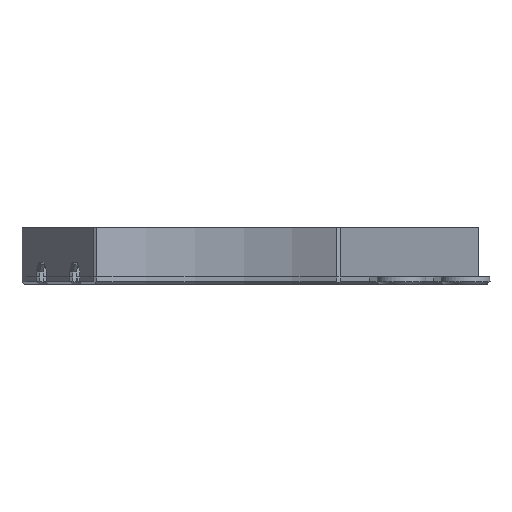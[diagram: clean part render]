
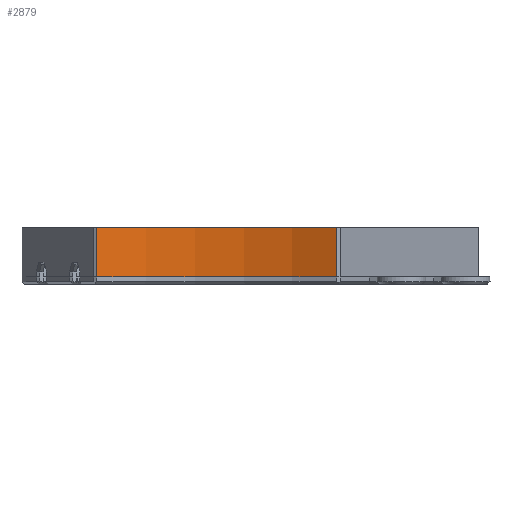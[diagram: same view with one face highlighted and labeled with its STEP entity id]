
A CAD part, front view. The second image highlights one B-rep face of the part: STEP entity #2879.
In plain terms, the highlighted cylindrical face has radius 52.6 mm (diameter 105.2 mm), a partial arc.
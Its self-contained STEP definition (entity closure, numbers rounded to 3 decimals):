
#408 = PLANE('',#409);
#409 = AXIS2_PLACEMENT_3D('',#410,#411,#412);
#410 = CARTESIAN_POINT('',(-13.717,51.194,1.2));
#411 = DIRECTION('',(0.502,0.865,0.));
#412 = DIRECTION('',(0.,0.,1.));
#436 = PLANE('',#437);
#437 = AXIS2_PLACEMENT_3D('',#438,#439,#440);
#438 = CARTESIAN_POINT('',(26.3,45.553,9.2));
#439 = DIRECTION('',(0.,0.,-1.));
#440 = DIRECTION('',(-1.,0.,0.));
#796 = VERTEX_POINT('',#797);
#797 = CARTESIAN_POINT('',(25.953,45.752,9.2));
#811 = PLANE('',#812);
#812 = AXIS2_PLACEMENT_3D('',#813,#814,#815);
#813 = CARTESIAN_POINT('',(26.5,45.899,1.2));
#814 = DIRECTION('',(0.261,-0.965,0.));
#815 = DIRECTION('',(0.,0.,1.));
#823 = EDGE_CURVE('',#796,#824,#826,.T.);
#824 = VERTEX_POINT('',#825);
#825 = CARTESIAN_POINT('',(-13.227,50.91,9.2));
#826 = SURFACE_CURVE('',#827,(#832,#843),.PCURVE_S1.);
#827 = CIRCLE('',#828,52.6);
#828 = AXIS2_PLACEMENT_3D('',#829,#830,#831);
#829 = CARTESIAN_POINT('',(0.,0.,9.2));
#830 = DIRECTION('',(0.,0.,1.));
#831 = DIRECTION('',(1.,0.,0.));
#832 = PCURVE('',#436,#833);
#833 = DEFINITIONAL_REPRESENTATION('',(#834),#842);
#834 = ( BOUNDED_CURVE() B_SPLINE_CURVE(2,(#835,#836,#837,#838,#839,#840
,#841),.UNSPECIFIED.,.T.,.F.) B_SPLINE_CURVE_WITH_KNOTS((1,2,2,2,2,1),(
    -2.094,0.,2.094,4.189,6.283,
8.378),.UNSPECIFIED.) CURVE() GEOMETRIC_REPRESENTATION_ITEM() 
RATIONAL_B_SPLINE_CURVE((1.,0.5,1.,0.5,1.,0.5,1.)) REPRESENTATION_ITEM(
  '') );
#835 = CARTESIAN_POINT('',(-26.3,-45.553));
#836 = CARTESIAN_POINT('',(-26.3,45.553));
#837 = CARTESIAN_POINT('',(52.6,0.));
#838 = CARTESIAN_POINT('',(131.5,-45.553));
#839 = CARTESIAN_POINT('',(52.6,-91.106));
#840 = CARTESIAN_POINT('',(-26.3,-136.659));
#841 = CARTESIAN_POINT('',(-26.3,-45.553));
#842 = ( GEOMETRIC_REPRESENTATION_CONTEXT(2) 
PARAMETRIC_REPRESENTATION_CONTEXT() REPRESENTATION_CONTEXT('2D SPACE',''
  ) );
#843 = PCURVE('',#844,#849);
#844 = CYLINDRICAL_SURFACE('',#845,52.6);
#845 = AXIS2_PLACEMENT_3D('',#846,#847,#848);
#846 = CARTESIAN_POINT('',(0.,0.,1.2));
#847 = DIRECTION('',(0.,0.,-1.));
#848 = DIRECTION('',(1.,0.,0.));
#849 = DEFINITIONAL_REPRESENTATION('',(#850),#854);
#850 = LINE('',#851,#852);
#851 = CARTESIAN_POINT('',(0.,-8.));
#852 = VECTOR('',#853,1.);
#853 = DIRECTION('',(-1.,0.));
#854 = ( GEOMETRIC_REPRESENTATION_CONTEXT(2) 
PARAMETRIC_REPRESENTATION_CONTEXT() REPRESENTATION_CONTEXT('2D SPACE',''
  ) );
#1175 = VERTEX_POINT('',#1176);
#1176 = CARTESIAN_POINT('',(-13.227,50.91,1.2));
#1202 = EDGE_CURVE('',#1175,#824,#1203,.T.);
#1203 = SURFACE_CURVE('',#1204,(#1208,#1215),.PCURVE_S1.);
#1204 = LINE('',#1205,#1206);
#1205 = CARTESIAN_POINT('',(-13.227,50.91,1.2));
#1206 = VECTOR('',#1207,1.);
#1207 = DIRECTION('',(0.,0.,1.));
#1208 = PCURVE('',#408,#1209);
#1209 = DEFINITIONAL_REPRESENTATION('',(#1210),#1214);
#1210 = LINE('',#1211,#1212);
#1211 = CARTESIAN_POINT('',(0.,0.567));
#1212 = VECTOR('',#1213,1.);
#1213 = DIRECTION('',(1.,0.));
#1214 = ( GEOMETRIC_REPRESENTATION_CONTEXT(2) 
PARAMETRIC_REPRESENTATION_CONTEXT() REPRESENTATION_CONTEXT('2D SPACE',''
  ) );
#1215 = PCURVE('',#844,#1216);
#1216 = DEFINITIONAL_REPRESENTATION('',(#1217),#1221);
#1217 = LINE('',#1218,#1219);
#1218 = CARTESIAN_POINT('',(-1.825,0.));
#1219 = VECTOR('',#1220,1.);
#1220 = DIRECTION('',(0.,-1.));
#1221 = ( GEOMETRIC_REPRESENTATION_CONTEXT(2) 
PARAMETRIC_REPRESENTATION_CONTEXT() REPRESENTATION_CONTEXT('2D SPACE',''
  ) );
#2632 = VERTEX_POINT('',#2633);
#2633 = CARTESIAN_POINT('',(25.953,45.752,1.2));
#2659 = EDGE_CURVE('',#2632,#796,#2660,.T.);
#2660 = SURFACE_CURVE('',#2661,(#2665,#2672),.PCURVE_S1.);
#2661 = LINE('',#2662,#2663);
#2662 = CARTESIAN_POINT('',(25.953,45.752,1.2));
#2663 = VECTOR('',#2664,1.);
#2664 = DIRECTION('',(0.,0.,1.));
#2665 = PCURVE('',#811,#2666);
#2666 = DEFINITIONAL_REPRESENTATION('',(#2667),#2671);
#2667 = LINE('',#2668,#2669);
#2668 = CARTESIAN_POINT('',(0.,0.567));
#2669 = VECTOR('',#2670,1.);
#2670 = DIRECTION('',(1.,0.));
#2671 = ( GEOMETRIC_REPRESENTATION_CONTEXT(2) 
PARAMETRIC_REPRESENTATION_CONTEXT() REPRESENTATION_CONTEXT('2D SPACE',''
  ) );
#2672 = PCURVE('',#844,#2673);
#2673 = DEFINITIONAL_REPRESENTATION('',(#2674),#2678);
#2674 = LINE('',#2675,#2676);
#2675 = CARTESIAN_POINT('',(-1.055,0.));
#2676 = VECTOR('',#2677,1.);
#2677 = DIRECTION('',(0.,-1.));
#2678 = ( GEOMETRIC_REPRESENTATION_CONTEXT(2) 
PARAMETRIC_REPRESENTATION_CONTEXT() REPRESENTATION_CONTEXT('2D SPACE',''
  ) );
#2879 = ADVANCED_FACE('',(#2880),#844,.F.);
#2880 = FACE_BOUND('',#2881,.T.);
#2881 = EDGE_LOOP('',(#2882,#2909,#2910,#2911));
#2882 = ORIENTED_EDGE('',*,*,#2883,.F.);
#2883 = EDGE_CURVE('',#2632,#1175,#2884,.T.);
#2884 = SURFACE_CURVE('',#2885,(#2890,#2897),.PCURVE_S1.);
#2885 = CIRCLE('',#2886,52.6);
#2886 = AXIS2_PLACEMENT_3D('',#2887,#2888,#2889);
#2887 = CARTESIAN_POINT('',(0.,0.,1.2));
#2888 = DIRECTION('',(0.,0.,1.));
#2889 = DIRECTION('',(1.,0.,0.));
#2890 = PCURVE('',#844,#2891);
#2891 = DEFINITIONAL_REPRESENTATION('',(#2892),#2896);
#2892 = LINE('',#2893,#2894);
#2893 = CARTESIAN_POINT('',(0.,0.));
#2894 = VECTOR('',#2895,1.);
#2895 = DIRECTION('',(-1.,0.));
#2896 = ( GEOMETRIC_REPRESENTATION_CONTEXT(2) 
PARAMETRIC_REPRESENTATION_CONTEXT() REPRESENTATION_CONTEXT('2D SPACE',''
  ) );
#2897 = PCURVE('',#2898,#2903);
#2898 = CYLINDRICAL_SURFACE('',#2899,52.6);
#2899 = AXIS2_PLACEMENT_3D('',#2900,#2901,#2902);
#2900 = CARTESIAN_POINT('',(0.,0.,0.));
#2901 = DIRECTION('',(0.,0.,-1.));
#2902 = DIRECTION('',(1.,0.,0.));
#2903 = DEFINITIONAL_REPRESENTATION('',(#2904),#2908);
#2904 = LINE('',#2905,#2906);
#2905 = CARTESIAN_POINT('',(0.,-1.2));
#2906 = VECTOR('',#2907,1.);
#2907 = DIRECTION('',(-1.,0.));
#2908 = ( GEOMETRIC_REPRESENTATION_CONTEXT(2) 
PARAMETRIC_REPRESENTATION_CONTEXT() REPRESENTATION_CONTEXT('2D SPACE',''
  ) );
#2909 = ORIENTED_EDGE('',*,*,#2659,.T.);
#2910 = ORIENTED_EDGE('',*,*,#823,.T.);
#2911 = ORIENTED_EDGE('',*,*,#1202,.F.);
